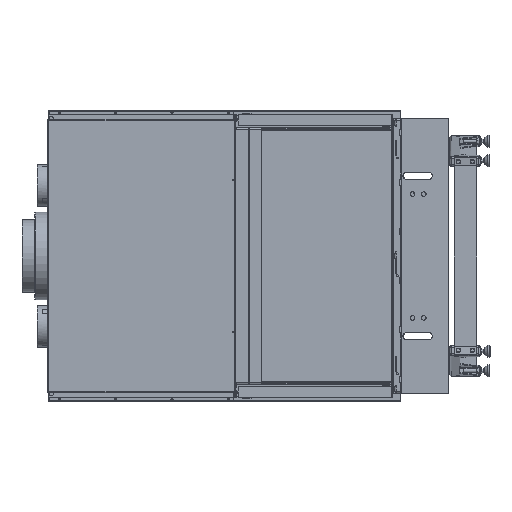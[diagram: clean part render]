
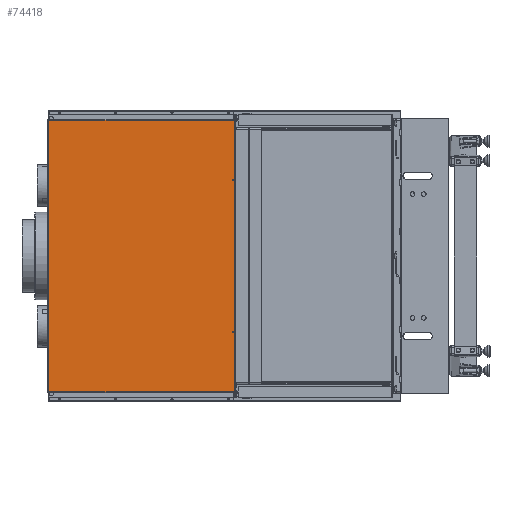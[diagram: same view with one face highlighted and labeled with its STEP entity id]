
A CAD part, left-side view. The second image highlights one B-rep face of the part: STEP entity #74418.
In plain terms, the highlighted planar face has unit normal (-1, 0, 0).
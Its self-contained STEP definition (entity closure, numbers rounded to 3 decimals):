
#2136 = VERTEX_POINT ( 'NONE', #191075 ) ;
#4820 = EDGE_LOOP ( 'NONE', ( #175824, #134322 ) ) ;
#6955 = VECTOR ( 'NONE', #175340, 1000. ) ;
#9316 = CARTESIAN_POINT ( 'NONE',  ( -471.75, 1328.1, -485. ) ) ;
#9663 = EDGE_CURVE ( 'NONE', #109797, #126384, #24489, .T. ) ;
#11830 = FACE_OUTER_BOUND ( 'NONE', #159346, .T. ) ;
#18774 = EDGE_CURVE ( 'NONE', #109797, #31149, #79278, .T. ) ;
#22734 = ORIENTED_EDGE ( 'NONE', *, *, #148040, .F. ) ;
#23509 = CARTESIAN_POINT ( 'NONE',  ( -471.75, 1328.1, 482. ) ) ;
#23972 = DIRECTION ( 'NONE',  ( 0., 0., -1. ) ) ;
#24271 = CARTESIAN_POINT ( 'NONE',  ( -471.75, 667.6, 482. ) ) ;
#24489 = LINE ( 'NONE', #9316, #178286 ) ;
#24711 = CIRCLE ( 'NONE', #49744, 2.5 ) ;
#29890 = CARTESIAN_POINT ( 'NONE',  ( -471.75, 672.6, -270.05 ) ) ;
#31107 = VECTOR ( 'NONE', #180279, 1000. ) ;
#31149 = VERTEX_POINT ( 'NONE', #60307 ) ;
#31539 = EDGE_CURVE ( 'NONE', #160287, #31149, #125809, .T. ) ;
#34095 = EDGE_CURVE ( 'NONE', #78310, #139895, #138550, .T. ) ;
#34379 = PLANE ( 'NONE',  #138526 ) ;
#35308 = CARTESIAN_POINT ( 'NONE',  ( -471.75, 667.6, 482. ) ) ;
#37329 = DIRECTION ( 'NONE',  ( -1., 0., 0. ) ) ;
#39710 = VERTEX_POINT ( 'NONE', #65449 ) ;
#40976 = EDGE_CURVE ( 'NONE', #88687, #160287, #92274, .T. ) ;
#41683 = ORIENTED_EDGE ( 'NONE', *, *, #92480, .F. ) ;
#42121 = VECTOR ( 'NONE', #139603, 1000. ) ;
#42744 = CARTESIAN_POINT ( 'NONE',  ( -471.75, 667.6, 482. ) ) ;
#45203 = CARTESIAN_POINT ( 'NONE',  ( -471.75, 1328.1, -482. ) ) ;
#46778 = FACE_BOUND ( 'NONE', #4820, .T. ) ;
#46869 = CARTESIAN_POINT ( 'NONE',  ( -471.75, 672.6, -272.55 ) ) ;
#49744 = AXIS2_PLACEMENT_3D ( 'NONE', #29890, #104232, #119891 ) ;
#50404 = CARTESIAN_POINT ( 'NONE',  ( -471.75, 672.6, 267.55 ) ) ;
#51755 = ORIENTED_EDGE ( 'NONE', *, *, #9663, .F. ) ;
#55494 = AXIS2_PLACEMENT_3D ( 'NONE', #172858, #37329, #186494 ) ;
#59981 = CARTESIAN_POINT ( 'NONE',  ( -471.75, 1328.1, -482. ) ) ;
#60307 = CARTESIAN_POINT ( 'NONE',  ( -471.75, 667.6, -482. ) ) ;
#60417 = EDGE_LOOP ( 'NONE', ( #41683, #102692 ) ) ;
#65053 = CIRCLE ( 'NONE', #101788, 2.5 ) ;
#65449 = CARTESIAN_POINT ( 'NONE',  ( -471.75, 667.6, 275.05 ) ) ;
#69894 = ORIENTED_EDGE ( 'NONE', *, *, #79518, .F. ) ;
#70787 = CARTESIAN_POINT ( 'NONE',  ( -471.75, 672.6, -270.05 ) ) ;
#73072 = CIRCLE ( 'NONE', #120620, 2.5 ) ;
#74418 = ADVANCED_FACE ( 'NONE', ( #46778, #151633, #11830 ), #34379, .F. ) ;
#77103 = CARTESIAN_POINT ( 'NONE',  ( -471.75, 667.6, 482. ) ) ;
#78310 = VERTEX_POINT ( 'NONE', #50404 ) ;
#79278 = LINE ( 'NONE', #45203, #93493 ) ;
#79518 = EDGE_CURVE ( 'NONE', #39710, #96527, #151216, .T. ) ;
#85106 = DIRECTION ( 'NONE',  ( 0., 0., 1. ) ) ;
#87104 = VECTOR ( 'NONE', #176855, 1000. ) ;
#88687 = VERTEX_POINT ( 'NONE', #167564 ) ;
#90352 = CARTESIAN_POINT ( 'NONE',  ( -471.75, 1328.1, 482. ) ) ;
#90508 = VECTOR ( 'NONE', #23972, 1000. ) ;
#92274 = LINE ( 'NONE', #151340, #111048 ) ;
#92480 = EDGE_CURVE ( 'NONE', #2136, #170271, #24711, .T. ) ;
#93493 = VECTOR ( 'NONE', #152046, 1000. ) ;
#96527 = VERTEX_POINT ( 'NONE', #116563 ) ;
#101788 = AXIS2_PLACEMENT_3D ( 'NONE', #70787, #174952, #191194 ) ;
#102692 = ORIENTED_EDGE ( 'NONE', *, *, #168281, .F. ) ;
#103769 = ORIENTED_EDGE ( 'NONE', *, *, #40976, .F. ) ;
#104232 = DIRECTION ( 'NONE',  ( -1., 0., 0. ) ) ;
#109797 = VERTEX_POINT ( 'NONE', #59981 ) ;
#110411 = LINE ( 'NONE', #90352, #31107 ) ;
#111048 = VECTOR ( 'NONE', #185065, 1000. ) ;
#116563 = CARTESIAN_POINT ( 'NONE',  ( -471.75, 667.6, 265.05 ) ) ;
#119891 = DIRECTION ( 'NONE',  ( 0., 0., 1. ) ) ;
#120620 = AXIS2_PLACEMENT_3D ( 'NONE', #159476, #142565, #85106 ) ;
#125809 = LINE ( 'NONE', #24271, #6955 ) ;
#125908 = DIRECTION ( 'NONE',  ( 0., 0., 1. ) ) ;
#125930 = ORIENTED_EDGE ( 'NONE', *, *, #18774, .T. ) ;
#126384 = VERTEX_POINT ( 'NONE', #23509 ) ;
#131106 = ORIENTED_EDGE ( 'NONE', *, *, #31539, .F. ) ;
#131256 = CARTESIAN_POINT ( 'NONE',  ( -471.75, 672.6, 272.55 ) ) ;
#134322 = ORIENTED_EDGE ( 'NONE', *, *, #34095, .F. ) ;
#135419 = CARTESIAN_POINT ( 'NONE',  ( -471.75, 667.6, -275.05 ) ) ;
#136186 = CARTESIAN_POINT ( 'NONE',  ( -471.75, 1328.1, -485. ) ) ;
#136211 = LINE ( 'NONE', #42744, #87104 ) ;
#136734 = ORIENTED_EDGE ( 'NONE', *, *, #149193, .F. ) ;
#138526 = AXIS2_PLACEMENT_3D ( 'NONE', #136186, #138706, #150512 ) ;
#138550 = CIRCLE ( 'NONE', #55494, 2.5 ) ;
#138706 = DIRECTION ( 'NONE',  ( 1., 0., 0. ) ) ;
#139603 = DIRECTION ( 'NONE',  ( 0., 0., -1. ) ) ;
#139895 = VERTEX_POINT ( 'NONE', #131256 ) ;
#141294 = CARTESIAN_POINT ( 'NONE',  ( -471.75, 667.6, 265.05 ) ) ;
#142565 = DIRECTION ( 'NONE',  ( -1., 0., 0. ) ) ;
#148040 = EDGE_CURVE ( 'NONE', #96527, #88687, #136211, .T. ) ;
#149193 = EDGE_CURVE ( 'NONE', #126384, #181820, #110411, .T. ) ;
#150512 = DIRECTION ( 'NONE',  ( 0., 1., 0. ) ) ;
#151216 = LINE ( 'NONE', #141294, #90508 ) ;
#151340 = CARTESIAN_POINT ( 'NONE',  ( -471.75, 667.6, -275.05 ) ) ;
#151633 = FACE_BOUND ( 'NONE', #60417, .T. ) ;
#152046 = DIRECTION ( 'NONE',  ( 0., -1., 0. ) ) ;
#159346 = EDGE_LOOP ( 'NONE', ( #160545, #136734, #51755, #125930, #131106, #103769, #22734, #69894 ) ) ;
#159476 = CARTESIAN_POINT ( 'NONE',  ( -471.75, 672.6, 270.05 ) ) ;
#160287 = VERTEX_POINT ( 'NONE', #135419 ) ;
#160545 = ORIENTED_EDGE ( 'NONE', *, *, #181903, .F. ) ;
#167564 = CARTESIAN_POINT ( 'NONE',  ( -471.75, 667.6, -265.05 ) ) ;
#168281 = EDGE_CURVE ( 'NONE', #170271, #2136, #65053, .T. ) ;
#170271 = VERTEX_POINT ( 'NONE', #46869 ) ;
#172858 = CARTESIAN_POINT ( 'NONE',  ( -471.75, 672.6, 270.05 ) ) ;
#174952 = DIRECTION ( 'NONE',  ( -1., 0., 0. ) ) ;
#175340 = DIRECTION ( 'NONE',  ( 0., 0., -1. ) ) ;
#175824 = ORIENTED_EDGE ( 'NONE', *, *, #187849, .F. ) ;
#176855 = DIRECTION ( 'NONE',  ( 0., 0., -1. ) ) ;
#176972 = LINE ( 'NONE', #35308, #42121 ) ;
#178286 = VECTOR ( 'NONE', #125908, 1000. ) ;
#180279 = DIRECTION ( 'NONE',  ( 0., -1., 0. ) ) ;
#181820 = VERTEX_POINT ( 'NONE', #77103 ) ;
#181903 = EDGE_CURVE ( 'NONE', #181820, #39710, #176972, .T. ) ;
#185065 = DIRECTION ( 'NONE',  ( 0., 0., -1. ) ) ;
#186494 = DIRECTION ( 'NONE',  ( 0., 0., 1. ) ) ;
#187849 = EDGE_CURVE ( 'NONE', #139895, #78310, #73072, .T. ) ;
#191075 = CARTESIAN_POINT ( 'NONE',  ( -471.75, 672.6, -267.55 ) ) ;
#191194 = DIRECTION ( 'NONE',  ( 0., 0., 1. ) ) ;
